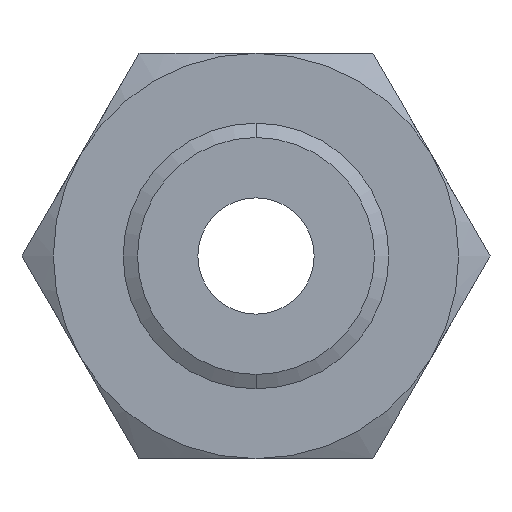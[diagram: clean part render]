
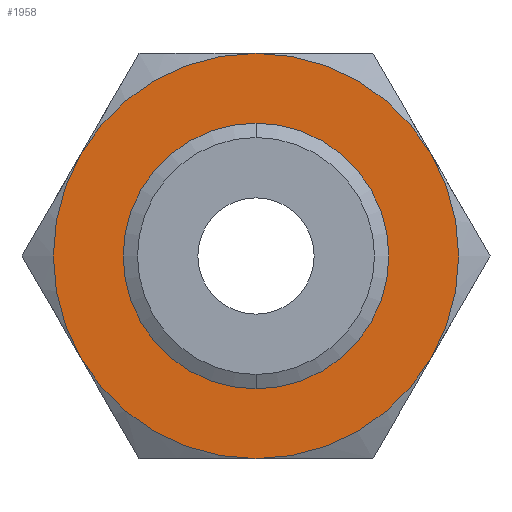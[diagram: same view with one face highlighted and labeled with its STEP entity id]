
A CAD part, front view. The second image highlights one B-rep face of the part: STEP entity #1958.
In plain terms, the highlighted planar face has unit normal (0, -1, 0).
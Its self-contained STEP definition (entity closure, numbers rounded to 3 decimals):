
#65 = CARTESIAN_POINT ( 'NONE',  ( 67.117, 0., 38.75 ) ) ;
#132 = AXIS2_PLACEMENT_3D ( 'NONE', #2835, #2834, #3077 ) ;
#133 = CIRCLE ( 'NONE', #132, 77.5 ) ;
#134 = DIRECTION ( 'NONE',  ( 0., 0., 1. ) ) ;
#135 = DIRECTION ( 'NONE',  ( 0., 1., 0. ) ) ;
#136 = CARTESIAN_POINT ( 'NONE',  ( 0., 0., 0. ) ) ;
#137 = AXIS2_PLACEMENT_3D ( 'NONE', #136, #135, #134 ) ;
#138 = CIRCLE ( 'NONE', #137, 77.5 ) ;
#213 = CARTESIAN_POINT ( 'NONE',  ( -67.117, 0., 38.75 ) ) ;
#241 = DIRECTION ( 'NONE',  ( 0., 0., 1. ) ) ;
#242 = DIRECTION ( 'NONE',  ( 0., 1., 0. ) ) ;
#243 = CARTESIAN_POINT ( 'NONE',  ( 44.745, 0., -77.5 ) ) ;
#244 = AXIS2_PLACEMENT_3D ( 'NONE', #243, #242, #241 ) ;
#245 = PLANE ( 'NONE',  #244 ) ;
#246 = FACE_BOUND ( 'NONE', #1672, .T. ) ;
#247 = FACE_OUTER_BOUND ( 'NONE', #1953, .T. ) ;
#253 = CARTESIAN_POINT ( 'NONE',  ( 0., 0., 77.5 ) ) ;
#1309 = DIRECTION ( 'NONE',  ( 0., 0., -1. ) ) ;
#1310 = DIRECTION ( 'NONE',  ( 0., -1., 0. ) ) ;
#1311 = CARTESIAN_POINT ( 'NONE',  ( 0., 0., 0. ) ) ;
#1312 = AXIS2_PLACEMENT_3D ( 'NONE', #1311, #1310, #1309 ) ;
#1316 = CIRCLE ( 'NONE', #1312, 45.301 ) ;
#1324 = CARTESIAN_POINT ( 'NONE',  ( 0., 0., 45.301 ) ) ;
#1325 = CARTESIAN_POINT ( 'NONE',  ( 0., 0., -45.301 ) ) ;
#1653 = VERTEX_POINT ( 'NONE', #2805 ) ;
#1655 = ORIENTED_EDGE ( 'NONE', *, *, #1660, .F. ) ;
#1656 = ORIENTED_EDGE ( 'NONE', *, *, #1657, .F. ) ;
#1657 = EDGE_CURVE ( 'NONE', #2527, #2526, #2803, .T. ) ;
#1660 = EDGE_CURVE ( 'NONE', #1896, #1662, #2859, .T. ) ;
#1661 = ORIENTED_EDGE ( 'NONE', *, *, #2532, .F. ) ;
#1662 = VERTEX_POINT ( 'NONE', #2852 ) ;
#1663 = EDGE_CURVE ( 'NONE', #1662, #1664, #2851, .T. ) ;
#1664 = VERTEX_POINT ( 'NONE', #2846 ) ;
#1665 = EDGE_CURVE ( 'NONE', #1664, #1653, #2845, .T. ) ;
#1666 = ORIENTED_EDGE ( 'NONE', *, *, #1663, .F. ) ;
#1667 = ORIENTED_EDGE ( 'NONE', *, *, #1669, .F. ) ;
#1669 = EDGE_CURVE ( 'NONE', #1653, #1949, #2840, .T. ) ;
#1672 = EDGE_LOOP ( 'NONE', ( #1661, #1656 ) ) ;
#1894 = ORIENTED_EDGE ( 'NONE', *, *, #1934, .F. ) ;
#1895 = ORIENTED_EDGE ( 'NONE', *, *, #1936, .F. ) ;
#1896 = VERTEX_POINT ( 'NONE', #65 ) ;
#1934 = EDGE_CURVE ( 'NONE', #1957, #1896, #138, .T. ) ;
#1936 = EDGE_CURVE ( 'NONE', #1949, #1957, #133, .T. ) ;
#1949 = VERTEX_POINT ( 'NONE', #213 ) ;
#1953 = EDGE_LOOP ( 'NONE', ( #1894, #1895, #1667, #2549, #1666, #1655 ) ) ;
#1957 = VERTEX_POINT ( 'NONE', #253 ) ;
#1958 = ADVANCED_FACE ( 'NONE', ( #247, #246 ), #245, .F. ) ;
#2526 = VERTEX_POINT ( 'NONE', #1325 ) ;
#2527 = VERTEX_POINT ( 'NONE', #1324 ) ;
#2532 = EDGE_CURVE ( 'NONE', #2526, #2527, #1316, .T. ) ;
#2549 = ORIENTED_EDGE ( 'NONE', *, *, #1665, .F. ) ;
#2799 = DIRECTION ( 'NONE',  ( 0., 0., -1. ) ) ;
#2800 = DIRECTION ( 'NONE',  ( 0., -1., 0. ) ) ;
#2801 = CARTESIAN_POINT ( 'NONE',  ( 0., 0., 0. ) ) ;
#2802 = AXIS2_PLACEMENT_3D ( 'NONE', #2801, #2800, #2799 ) ;
#2803 = CIRCLE ( 'NONE', #2802, 45.301 ) ;
#2805 = CARTESIAN_POINT ( 'NONE',  ( -67.117, 0., -38.75 ) ) ;
#2834 = DIRECTION ( 'NONE',  ( 0., 1., 0. ) ) ;
#2835 = CARTESIAN_POINT ( 'NONE',  ( 0., 0., 0. ) ) ;
#2836 = DIRECTION ( 'NONE',  ( 0., 0., 1. ) ) ;
#2837 = DIRECTION ( 'NONE',  ( 0., 1., 0. ) ) ;
#2838 = CARTESIAN_POINT ( 'NONE',  ( 0., 0., 0. ) ) ;
#2839 = AXIS2_PLACEMENT_3D ( 'NONE', #2838, #2837, #2836 ) ;
#2840 = CIRCLE ( 'NONE', #2839, 77.5 ) ;
#2841 = DIRECTION ( 'NONE',  ( 0., 0., 1. ) ) ;
#2842 = DIRECTION ( 'NONE',  ( 0., 1., 0. ) ) ;
#2843 = CARTESIAN_POINT ( 'NONE',  ( 0., 0., 0. ) ) ;
#2844 = AXIS2_PLACEMENT_3D ( 'NONE', #2843, #2842, #2841 ) ;
#2845 = CIRCLE ( 'NONE', #2844, 77.5 ) ;
#2846 = CARTESIAN_POINT ( 'NONE',  ( 0., 0., -77.5 ) ) ;
#2847 = DIRECTION ( 'NONE',  ( 0., 0., 1. ) ) ;
#2848 = DIRECTION ( 'NONE',  ( 0., 1., 0. ) ) ;
#2849 = CARTESIAN_POINT ( 'NONE',  ( 0., 0., 0. ) ) ;
#2850 = AXIS2_PLACEMENT_3D ( 'NONE', #2849, #2848, #2847 ) ;
#2851 = CIRCLE ( 'NONE', #2850, 77.5 ) ;
#2852 = CARTESIAN_POINT ( 'NONE',  ( 67.117, 0., -38.75 ) ) ;
#2853 = DIRECTION ( 'NONE',  ( 0., 0., 1. ) ) ;
#2854 = DIRECTION ( 'NONE',  ( 0., 1., 0. ) ) ;
#2855 = CARTESIAN_POINT ( 'NONE',  ( 0., 0., 0. ) ) ;
#2856 = AXIS2_PLACEMENT_3D ( 'NONE', #2855, #2854, #2853 ) ;
#2859 = CIRCLE ( 'NONE', #2856, 77.5 ) ;
#3077 = DIRECTION ( 'NONE',  ( 0., 0., 1. ) ) ;
